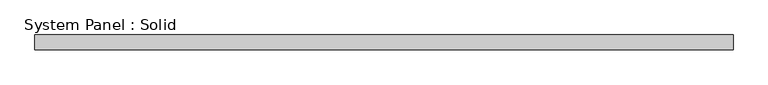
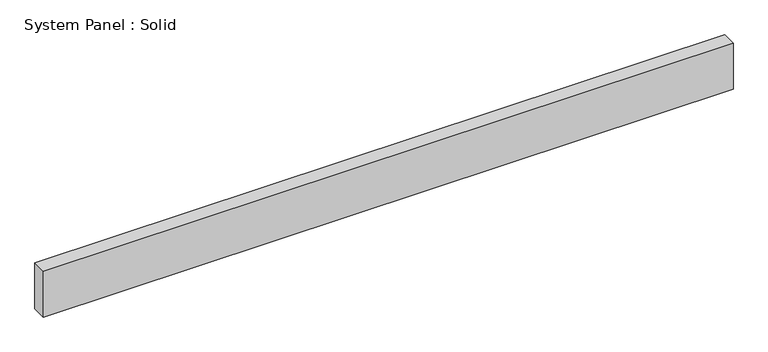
"""IFC4 building model written with IfcOpenShell, lengths in millimetres: plate geometry, System Panel : Solid."""

import ifcopenshell
import ifcopenshell.guid

model = None  # the IFC model being written
_history = None  # IfcOwnerHistory: only IFC2X3 demands one
_inside = {}  # id of a spatial element -> (the spatial element, [elements in it])
_under = {}  # id of a project, library or spatial element -> (it, [spatial elements below it])
_declared = {}  # id of a project -> (the project, [libraries it declares])
_typed = {}  # id of a type object -> (the type object, [elements of that type])
_made_of = {}  # id of a material, layer set ... -> (it, [elements and type objects made of it])


def new_model(schema):
    """Start an empty IFC model of exactly this schema.

    Asked for "IFC4X3", IfcOpenShell would pick the latest addendum, in which some entities
    have other attributes; the version numbers below select the first issue.
    IFC2X3 requires an IfcOwnerHistory on every rooted entity: one is made here for all.
    """
    global model, _history
    if schema == "IFC4X3":
        model = ifcopenshell.file(schema_version=(4, 3, 0, 0))
    else:
        model = ifcopenshell.file(schema=schema)
    _inside.clear()
    _under.clear()
    _declared.clear()
    _typed.clear()
    _made_of.clear()
    _history = None
    if model.schema == "IFC2X3":
        org = make("IfcOrganization", Name="unknown")
        user = make(
            "IfcPersonAndOrganization",
            ThePerson=make("IfcPerson", FamilyName="unknown"),
            TheOrganization=org,
        )
        app = make(
            "IfcApplication",
            ApplicationDeveloper=org,
            Version="unknown",
            ApplicationFullName="unknown",
            ApplicationIdentifier="unknown",
        )
        _history = make(
            "IfcOwnerHistory",
            OwningUser=user,
            OwningApplication=app,
            ChangeAction="ADDED",
            CreationDate=0,
        )
    return model


def make(cls, **values):
    """One entity of the class cls with the attributes given. An attribute that is None is left unset."""
    return model.create_entity(
        cls, **{name: value for name, value in values.items() if value is not None}
    )


def rooted(cls, **values):
    """An entity with a GlobalId (a new one), such as an element, a storey or a relation."""
    return make(cls, GlobalId=ifcopenshell.guid.new(), OwnerHistory=_history, **values)


def si_unit(unit_type, name, prefix=None):
    """IfcSIUnit, for example si_unit("LENGTHUNIT", "METRE", prefix="MILLI")."""
    return make("IfcSIUnit", UnitType=unit_type, Prefix=prefix, Name=name)


def assignment(units):
    """IfcUnitAssignment: the units of a project."""
    return None if units is None else make("IfcUnitAssignment", Units=units)


def point(xyz):
    """IfcCartesianPoint."""
    return None if xyz is None else make("IfcCartesianPoint", Coordinates=xyz)


def direction(xyz):
    """IfcDirection."""
    return None if xyz is None else make("IfcDirection", DirectionRatios=xyz)


def frame(location, z_axis=None, x_axis=None):
    """IfcAxis2Placement3D, a coordinate frame: its origin and axes. An axis left out is left unset."""
    return make(
        "IfcAxis2Placement3D",
        Location=point(location),
        Axis=direction(z_axis),
        RefDirection=direction(x_axis),
    )


def origin():
    """The frame at (0, 0, 0) with its axes left unset."""
    return frame((0.0, 0.0, 0.0))


def origin_with_axes():
    """The frame at (0, 0, 0) with the z axis (0, 0, 1) and the x axis (1, 0, 0) written out."""
    return frame((0.0, 0.0, 0.0), z_axis=(0.0, 0.0, 1.0), x_axis=(1.0, 0.0, 0.0))


def place(relative_to, where):
    """IfcLocalPlacement: puts the frame where relative to a parent placement (None: the world)."""
    return make(
        "IfcLocalPlacement", PlacementRelTo=relative_to, RelativePlacement=where
    )


def context(
    kind, dimensions, precision=None, world=None, true_north=None, identifier=None
):
    """IfcGeometricRepresentationContext, for example the 3D "Model" context."""
    return make(
        "IfcGeometricRepresentationContext",
        ContextIdentifier=identifier,
        ContextType=kind,
        CoordinateSpaceDimension=dimensions,
        Precision=precision,
        WorldCoordinateSystem=world,
        TrueNorth=true_north,
    )


def project(units=None, contexts=None):
    """IfcProject with its units and contexts."""
    return rooted(
        "IfcProject",
        Name="project",
        RepresentationContexts=contexts,
        UnitsInContext=assignment(units),
    )


def spatial(cls, under=None, at=None, **own):
    """A site, building, storey or space (cls), placed at a placement, below another one or the project."""
    s = rooted(cls, ObjectPlacement=at, **own)
    if under is not None:
        _under.setdefault(under.id(), (under, []))[1].append(s)
    return s


def polyline(points):
    """IfcPolyline through the points."""
    return make("IfcPolyline", Points=[point(p) for p in points])


def outline(outer, holes=None, kind="AREA"):
    """IfcArbitraryClosedProfileDef: a profile drawn as a closed curve; with holes, ...WithVoids."""
    if holes is None:
        return make("IfcArbitraryClosedProfileDef", ProfileType=kind, OuterCurve=outer)
    return make(
        "IfcArbitraryProfileDefWithVoids",
        ProfileType=kind,
        OuterCurve=outer,
        InnerCurves=holes,
    )


def extrude(swept, where, along, depth):
    """IfcExtrudedAreaSolid: the profile swept, set in the frame where, extruded along a direction by depth."""
    return make(
        "IfcExtrudedAreaSolid",
        SweptArea=swept,
        Position=where,
        ExtrudedDirection=direction(along),
        Depth=depth,
    )


def shape(context_of_items, identifier, shape_type, items):
    """IfcShapeRepresentation: the items that make up one representation, for example the "Body"."""
    return make(
        "IfcShapeRepresentation",
        ContextOfItems=context_of_items,
        RepresentationIdentifier=identifier,
        RepresentationType=shape_type,
        Items=items,
    )


def source(mapping_origin, context_of_items, identifier, shape_type, items):
    """IfcRepresentationMap: a shape defined once, which mapped items show again and again."""
    return make(
        "IfcRepresentationMap",
        MappingOrigin=mapping_origin,
        MappedRepresentation=shape(context_of_items, identifier, shape_type, items),
    )


def transform(
    local_origin,
    x_axis=None,
    y_axis=None,
    z_axis=None,
    scale=None,
    scale2=None,
    scale3=None,
    uniform=True,
):
    """IfcCartesianTransformationOperator3D, or its non-uniform kind. x_axis, y_axis, z_axis: its Axis1, 2, 3."""
    if uniform:
        return make(
            "IfcCartesianTransformationOperator3D",
            Axis1=direction(x_axis),
            Axis2=direction(y_axis),
            LocalOrigin=point(local_origin),
            Scale=scale,
            Axis3=direction(z_axis),
        )
    return make(
        "IfcCartesianTransformationOperator3DnonUniform",
        Axis1=direction(x_axis),
        Axis2=direction(y_axis),
        LocalOrigin=point(local_origin),
        Scale=scale,
        Axis3=direction(z_axis),
        Scale2=scale2,
        Scale3=scale3,
    )


def mapped(mapping_source, mapping_target):
    """IfcMappedItem: shows the shape of a source again, moved by a transform."""
    return make(
        "IfcMappedItem", MappingSource=mapping_source, MappingTarget=mapping_target
    )


def made_of(thing, what):
    """Note that an element or type object is made of a material, layer set ...; save() writes the relation."""
    if what is not None:
        _made_of.setdefault(what.id(), (what, []))[1].append(thing)
    return thing


def element(
    cls,
    number,
    at=None,
    inside=None,
    cuts=None,
    type_object=None,
    material=None,
    context=None,
    identifier="Body",
    shape_type=None,
    held_by="IfcProductDefinitionShape",
    body=None,
    shapes=None,
    **own,
):
    """One element of the class cls, such as IfcWall. Its Tag is "e" and its number.

    at: its placement. inside: the storey or other place that contains it. cuts: it is an
    opening in that element (IfcRelVoidsElement). A single representation is given by context,
    identifier, shape_type and body (its items); several are given by shapes. held_by: the class
    of the entity that holds the representations. save() writes the other relations.
    """
    e = rooted(cls, Tag="e%d" % number, ObjectPlacement=at, **own)
    if body is not None:
        shapes = [shape(context, identifier, shape_type, body)]
    if shapes is not None:
        e.Representation = make(held_by, Representations=shapes)
    if inside is not None:
        _inside.setdefault(inside.id(), (inside, []))[1].append(e)
    if cuts is not None:
        rooted(
            "IfcRelVoidsElement", RelatingBuildingElement=cuts, RelatedOpeningElement=e
        )
    if type_object is not None:
        _typed.setdefault(type_object.id(), (type_object, []))[1].append(e)
    return made_of(e, material)


def aggregate(whole, parts):
    """IfcRelAggregates: a whole, such as a stair, and the parts it consists of."""
    return rooted("IfcRelAggregates", RelatingObject=whole, RelatedObjects=parts)


def save(model, path):
    """Write the relations noted so far, then the file.

    IfcRelAggregates (storeys below a building ...), IfcRelContainedInSpatialStructure (elements
    in a storey), IfcRelDefinesByType, IfcRelAssociatesMaterial and IfcRelDeclares: one each for
    every whole, place, type object, material and project.
    """
    for whole, parts in _under.values():
        aggregate(whole, parts)
    for where, things in _inside.values():
        rooted(
            "IfcRelContainedInSpatialStructure",
            RelatedElements=things,
            RelatingStructure=where,
        )
    for kind, things in _typed.values():
        rooted("IfcRelDefinesByType", RelatedObjects=things, RelatingType=kind)
    for what, things in _made_of.values():
        rooted("IfcRelAssociatesMaterial", RelatedObjects=things, RelatingMaterial=what)
    for by, libraries in _declared.values():
        rooted("IfcRelDeclares", RelatingContext=by, RelatedDefinitions=libraries)
    model.write(path)


def system_panel_solid_edf877d0(model_context):
    return source(origin(), model_context, "Body", "SweptSolid", [
        extrude(outline(polyline([(1492.25, -19.05), (-1492.25, -19.05), (-1492.25, 44.45), (1492.25, 44.45), (1492.25, -19.05)])), origin_with_axes(), (0.0, 0.0, 1.0), 209.55),
    ])


if __name__ == "__main__":
    model = new_model("IFC4")
    model_context = context("Model", 3, world=origin())
    ifc_project = project(units=[si_unit("LENGTHUNIT", "METRE", prefix="MILLI")], contexts=[model_context])
    site = spatial("IfcSite", under=ifc_project)
    building = spatial("IfcBuilding", under=site)
    placement = place(None, origin())
    system_panel_solid_shape = system_panel_solid_edf877d0(model_context)
    element("IfcPlate", 1, ObjectType="System Panel : Solid", at=placement, inside=building, context=model_context, shape_type="MappedRepresentation", body=[
        mapped(system_panel_solid_shape, transform((0.0, 0.0, 0.0), x_axis=(1.0, 0.0, 0.0), y_axis=(0.0, 1.0, 0.0), z_axis=(0.0, 0.0, 1.0))),
    ])
    save(model, "model.ifc")
